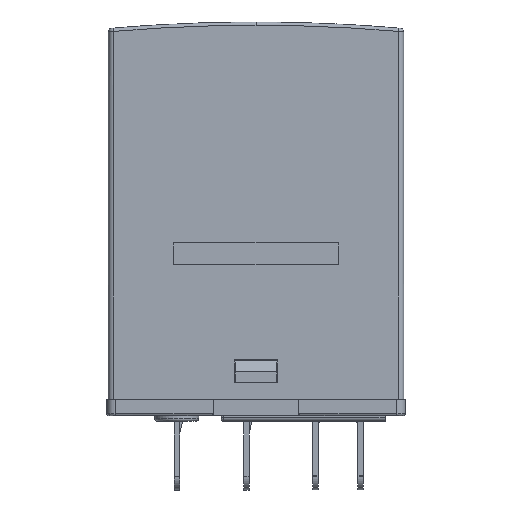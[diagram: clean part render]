
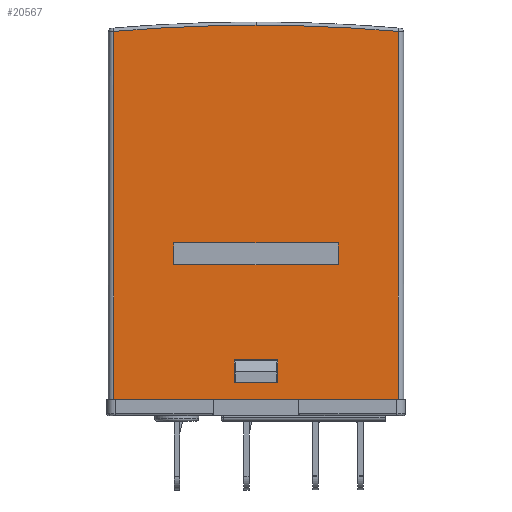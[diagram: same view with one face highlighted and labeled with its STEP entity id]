
A CAD part, left-side view. The second image highlights one B-rep face of the part: STEP entity #20567.
In plain terms, the highlighted planar face has unit normal (-1, 0, 0) as drawn and (0, -1, 0) by its records, which use the part's own axes.
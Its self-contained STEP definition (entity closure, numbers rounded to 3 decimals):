
#419 = LINE ( 'NONE', #80996, #42315 ) ;
#614 = EDGE_CURVE ( 'NONE', #64732, #35629, #80108, .T. ) ;
#709 = AXIS2_PLACEMENT_3D ( 'NONE', #34451, #78316, #40758 ) ;
#1652 = CARTESIAN_POINT ( 'NONE',  ( 0., -10.45, -117.975 ) ) ;
#1803 = VERTEX_POINT ( 'NONE', #63897 ) ;
#2431 = DIRECTION ( 'NONE',  ( 0., 0., -1. ) ) ;
#2987 = EDGE_CURVE ( 'NONE', #56747, #69607, #78692, .T. ) ;
#3424 = VERTEX_POINT ( 'NONE', #80352 ) ;
#4474 = CARTESIAN_POINT ( 'NONE',  ( 2., -10.45, 3.3 ) ) ;
#5003 = DIRECTION ( 'NONE',  ( -1., 0., 0. ) ) ;
#5779 = VERTEX_POINT ( 'NONE', #64364 ) ;
#7597 = EDGE_CURVE ( 'NONE', #5779, #22499, #68208, .T. ) ;
#7969 = DIRECTION ( 'NONE',  ( 0., 0., 1. ) ) ;
#8154 = CARTESIAN_POINT ( 'NONE',  ( -7.5, -10.45, 14. ) ) ;
#8481 = FACE_BOUND ( 'NONE', #75215, .T. ) ;
#8914 = VECTOR ( 'NONE', #31447, 1000. ) ;
#11084 = EDGE_CURVE ( 'NONE', #35629, #5779, #419, .T. ) ;
#12381 = CARTESIAN_POINT ( 'NONE',  ( -13.5, -10.45, 34.5 ) ) ;
#12652 = VECTOR ( 'NONE', #67555, 1000. ) ;
#12979 = CARTESIAN_POINT ( 'NONE',  ( -13., -10.45, 33.343 ) ) ;
#13691 = VECTOR ( 'NONE', #61962, 1000. ) ;
#13942 = CARTESIAN_POINT ( 'NONE',  ( 13., -10.45, 33.343 ) ) ;
#16157 = CARTESIAN_POINT ( 'NONE',  ( 0., -10.45, 33.9 ) ) ;
#16358 = ORIENTED_EDGE ( 'NONE', *, *, #2987, .T. ) ;
#16852 = EDGE_CURVE ( 'NONE', #29934, #56747, #19586, .T. ) ;
#17333 = VERTEX_POINT ( 'NONE', #75861 ) ;
#17696 = EDGE_CURVE ( 'NONE', #58789, #1803, #47728, .T. ) ;
#19586 = LINE ( 'NONE', #62279, #8914 ) ;
#20214 = EDGE_LOOP ( 'NONE', ( #75857, #75667, #20867, #48678 ) ) ;
#20567 = ADVANCED_FACE ( 'NONE', ( #76919, #58223, #8481 ), #37184, .F. ) ;
#20867 = ORIENTED_EDGE ( 'NONE', *, *, #68908, .T. ) ;
#22483 = CARTESIAN_POINT ( 'NONE',  ( 2., -10.45, 1.2 ) ) ;
#22499 = VERTEX_POINT ( 'NONE', #47032 ) ;
#23988 = ORIENTED_EDGE ( 'NONE', *, *, #49146, .F. ) ;
#25015 = DIRECTION ( 'NONE',  ( 0., 0., -1. ) ) ;
#27111 = EDGE_CURVE ( 'NONE', #1803, #3424, #50750, .T. ) ;
#29934 = VERTEX_POINT ( 'NONE', #48675 ) ;
#31214 = DIRECTION ( 'NONE',  ( 0., 0., 1. ) ) ;
#31447 = DIRECTION ( 'NONE',  ( 0., 0., 1. ) ) ;
#32757 = CIRCLE ( 'NONE', #709, 151.875 ) ;
#33073 = LINE ( 'NONE', #37806, #47715 ) ;
#34315 = CARTESIAN_POINT ( 'NONE',  ( -13.5, -10.45, 1.2 ) ) ;
#34451 = CARTESIAN_POINT ( 'NONE',  ( 0., -10.45, -117.975 ) ) ;
#35629 = VERTEX_POINT ( 'NONE', #4474 ) ;
#36013 = CARTESIAN_POINT ( 'NONE',  ( 13., -10.45, -0.3 ) ) ;
#36186 = ORIENTED_EDGE ( 'NONE', *, *, #48230, .T. ) ;
#36864 = VECTOR ( 'NONE', #5003, 1000. ) ;
#37184 = PLANE ( 'NONE',  #46957 ) ;
#37806 = CARTESIAN_POINT ( 'NONE',  ( -13., -10.45, 34.5 ) ) ;
#38194 = VECTOR ( 'NONE', #46871, 1000. ) ;
#40504 = CARTESIAN_POINT ( 'NONE',  ( -7.5, -10.45, 12. ) ) ;
#40758 = DIRECTION ( 'NONE',  ( 0., 0., 1. ) ) ;
#42315 = VECTOR ( 'NONE', #68338, 1000. ) ;
#42992 = ORIENTED_EDGE ( 'NONE', *, *, #27111, .F. ) ;
#43557 = VECTOR ( 'NONE', #64040, 1000. ) ;
#45256 = DIRECTION ( 'NONE',  ( 0., -1., 0. ) ) ;
#46767 = EDGE_LOOP ( 'NONE', ( #76827, #16358, #73384, #36186, #23988 ) ) ;
#46871 = DIRECTION ( 'NONE',  ( -1., 0., 0. ) ) ;
#46957 = AXIS2_PLACEMENT_3D ( 'NONE', #12381, #68641, #31214 ) ;
#47032 = CARTESIAN_POINT ( 'NONE',  ( -2., -10.45, 1.2 ) ) ;
#47715 = VECTOR ( 'NONE', #62689, 1000. ) ;
#47728 = LINE ( 'NONE', #80233, #12652 ) ;
#48230 = EDGE_CURVE ( 'NONE', #60487, #17333, #33073, .T. ) ;
#48675 = CARTESIAN_POINT ( 'NONE',  ( 13., -10.45, -0.3 ) ) ;
#48678 = ORIENTED_EDGE ( 'NONE', *, *, #7597, .F. ) ;
#49098 = DIRECTION ( 'NONE',  ( 0., 0., 1. ) ) ;
#49146 = EDGE_CURVE ( 'NONE', #29934, #17333, #70127, .T. ) ;
#49365 = CARTESIAN_POINT ( 'NONE',  ( 2., -10.45, 3.6 ) ) ;
#50750 = LINE ( 'NONE', #62233, #13691 ) ;
#51505 = VECTOR ( 'NONE', #2431, 1000. ) ;
#54761 = VERTEX_POINT ( 'NONE', #77812 ) ;
#54826 = LINE ( 'NONE', #34315, #38194 ) ;
#56131 = CARTESIAN_POINT ( 'NONE',  ( -7.5, -10.45, 14. ) ) ;
#56747 = VERTEX_POINT ( 'NONE', #13942 ) ;
#57207 = EDGE_CURVE ( 'NONE', #54761, #58789, #66170, .T. ) ;
#58223 = FACE_OUTER_BOUND ( 'NONE', #46767, .T. ) ;
#58789 = VERTEX_POINT ( 'NONE', #40504 ) ;
#59569 = ORIENTED_EDGE ( 'NONE', *, *, #17696, .F. ) ;
#60487 = VERTEX_POINT ( 'NONE', #12979 ) ;
#61962 = DIRECTION ( 'NONE',  ( 0., 0., 1. ) ) ;
#62233 = CARTESIAN_POINT ( 'NONE',  ( 7.5, -10.45, 14. ) ) ;
#62279 = CARTESIAN_POINT ( 'NONE',  ( 13., -10.45, 34.5 ) ) ;
#62689 = DIRECTION ( 'NONE',  ( 0., 0., -1. ) ) ;
#63326 = VECTOR ( 'NONE', #49098, 1000. ) ;
#63897 = CARTESIAN_POINT ( 'NONE',  ( 7.5, -10.45, 12. ) ) ;
#64040 = DIRECTION ( 'NONE',  ( -1., 0., 0. ) ) ;
#64357 = AXIS2_PLACEMENT_3D ( 'NONE', #1652, #45256, #7969 ) ;
#64364 = CARTESIAN_POINT ( 'NONE',  ( -2., -10.45, 3.3 ) ) ;
#64644 = CARTESIAN_POINT ( 'NONE',  ( -2., -10.45, 3.6 ) ) ;
#64732 = VERTEX_POINT ( 'NONE', #22483 ) ;
#66080 = EDGE_CURVE ( 'NONE', #69607, #60487, #32757, .T. ) ;
#66112 = ORIENTED_EDGE ( 'NONE', *, *, #73477, .F. ) ;
#66170 = LINE ( 'NONE', #56131, #80981 ) ;
#67516 = ORIENTED_EDGE ( 'NONE', *, *, #57207, .F. ) ;
#67555 = DIRECTION ( 'NONE',  ( 1., 0., 0. ) ) ;
#68208 = LINE ( 'NONE', #64644, #51505 ) ;
#68338 = DIRECTION ( 'NONE',  ( -1., 0., 0. ) ) ;
#68641 = DIRECTION ( 'NONE',  ( 0., 1., 0. ) ) ;
#68908 = EDGE_CURVE ( 'NONE', #64732, #22499, #54826, .T. ) ;
#69607 = VERTEX_POINT ( 'NONE', #16157 ) ;
#70127 = LINE ( 'NONE', #36013, #36864 ) ;
#73384 = ORIENTED_EDGE ( 'NONE', *, *, #66080, .T. ) ;
#73477 = EDGE_CURVE ( 'NONE', #3424, #54761, #80870, .T. ) ;
#75215 = EDGE_LOOP ( 'NONE', ( #59569, #67516, #66112, #42992 ) ) ;
#75667 = ORIENTED_EDGE ( 'NONE', *, *, #614, .F. ) ;
#75857 = ORIENTED_EDGE ( 'NONE', *, *, #11084, .F. ) ;
#75861 = CARTESIAN_POINT ( 'NONE',  ( -13., -10.45, -0.3 ) ) ;
#76827 = ORIENTED_EDGE ( 'NONE', *, *, #16852, .T. ) ;
#76919 = FACE_BOUND ( 'NONE', #20214, .T. ) ;
#77812 = CARTESIAN_POINT ( 'NONE',  ( -7.5, -10.45, 14. ) ) ;
#78316 = DIRECTION ( 'NONE',  ( 0., -1., 0. ) ) ;
#78692 = CIRCLE ( 'NONE', #64357, 151.875 ) ;
#80108 = LINE ( 'NONE', #49365, #63326 ) ;
#80233 = CARTESIAN_POINT ( 'NONE',  ( -7.5, -10.45, 12. ) ) ;
#80352 = CARTESIAN_POINT ( 'NONE',  ( 7.5, -10.45, 14. ) ) ;
#80870 = LINE ( 'NONE', #8154, #43557 ) ;
#80981 = VECTOR ( 'NONE', #25015, 1000. ) ;
#80996 = CARTESIAN_POINT ( 'NONE',  ( -2., -10.45, 3.3 ) ) ;
